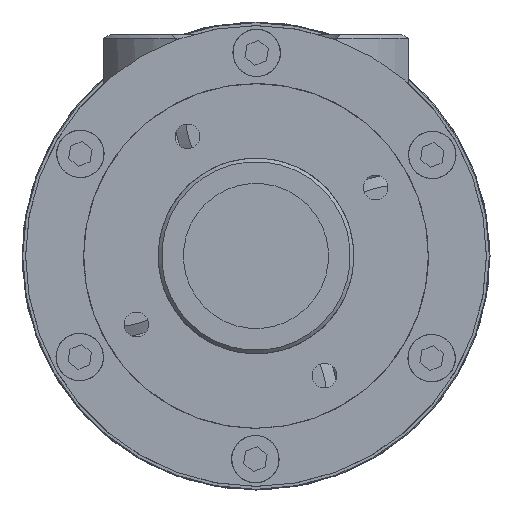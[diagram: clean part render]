
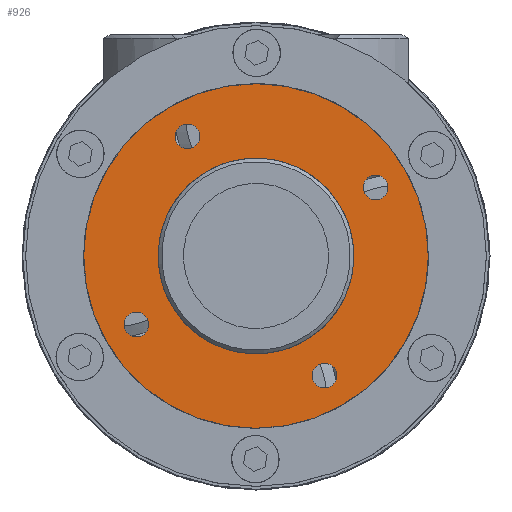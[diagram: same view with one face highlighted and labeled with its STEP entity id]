
A CAD part, left-side view. The second image highlights one B-rep face of the part: STEP entity #926.
In plain terms, the highlighted planar face has unit normal (-1, 0, 0) as drawn and (0, -1, 0) by its records, which use the part's own axes.
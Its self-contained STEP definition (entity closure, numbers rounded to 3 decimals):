
#926 = ADVANCED_FACE( '', ( #1956, #1957, #1958, #1959, #1960, #1961 ), #1962, .F. );
#1956 = FACE_OUTER_BOUND( '', #3077, .T. );
#1957 = FACE_BOUND( '', #3078, .T. );
#1958 = FACE_BOUND( '', #3079, .T. );
#1959 = FACE_BOUND( '', #3080, .T. );
#1960 = FACE_BOUND( '', #3081, .T. );
#1961 = FACE_BOUND( '', #3082, .T. );
#1962 = PLANE( '', #3083 );
#3077 = EDGE_LOOP( '', ( #5564 ) );
#3078 = EDGE_LOOP( '', ( #5565 ) );
#3079 = EDGE_LOOP( '', ( #5566 ) );
#3080 = EDGE_LOOP( '', ( #5567 ) );
#3081 = EDGE_LOOP( '', ( #5568 ) );
#3082 = EDGE_LOOP( '', ( #5569 ) );
#3083 = AXIS2_PLACEMENT_3D( '', #5570, #5571, #5572 );
#5564 = ORIENTED_EDGE( '', *, *, #6716, .T. );
#5565 = ORIENTED_EDGE( '', *, *, #6724, .F. );
#5566 = ORIENTED_EDGE( '', *, *, #6722, .F. );
#5567 = ORIENTED_EDGE( '', *, *, #6723, .F. );
#5568 = ORIENTED_EDGE( '', *, *, #6725, .F. );
#5569 = ORIENTED_EDGE( '', *, *, #6726, .F. );
#5570 = CARTESIAN_POINT( '', ( 0., 0., 47.5 ) );
#5571 = DIRECTION( '', ( 0., 1., 0. ) );
#5572 = DIRECTION( '', ( 1., 0., 0. ) );
#6716 = EDGE_CURVE( '', #7967, #7967, #7968, .T. );
#6722 = EDGE_CURVE( '', #7979, #7979, #7980, .T. );
#6723 = EDGE_CURVE( '', #7981, #7981, #7982, .T. );
#6724 = EDGE_CURVE( '', #7983, #7983, #7984, .T. );
#6725 = EDGE_CURVE( '', #7985, #7985, #7986, .T. );
#6726 = EDGE_CURVE( '', #7987, #7987, #7988, .T. );
#7967 = VERTEX_POINT( '', #10101 );
#7968 = CIRCLE( '', #10102, 47.5 );
#7979 = VERTEX_POINT( '', #10113 );
#7980 = CIRCLE( '', #10114, 3.4 );
#7981 = VERTEX_POINT( '', #10115 );
#7982 = CIRCLE( '', #10116, 3.4 );
#7983 = VERTEX_POINT( '', #10117 );
#7984 = CIRCLE( '', #10118, 3.4 );
#7985 = VERTEX_POINT( '', #10119 );
#7986 = CIRCLE( '', #10120, 3.4 );
#7987 = VERTEX_POINT( '', #10121 );
#7988 = CIRCLE( '', #10122, 27. );
#10101 = CARTESIAN_POINT( '', ( 0., 0., -47.5 ) );
#10102 = AXIS2_PLACEMENT_3D( '', #11837, #11838, #11839 );
#10113 = CARTESIAN_POINT( '', ( -3.4, 0., -38. ) );
#10114 = AXIS2_PLACEMENT_3D( '', #11855, #11856, #11857 );
#10115 = CARTESIAN_POINT( '', ( 38., 0., -3.4 ) );
#10116 = AXIS2_PLACEMENT_3D( '', #11858, #11859, #11860 );
#10117 = CARTESIAN_POINT( '', ( -38., 0., 3.4 ) );
#10118 = AXIS2_PLACEMENT_3D( '', #11861, #11862, #11863 );
#10119 = CARTESIAN_POINT( '', ( 3.4, 0., 38. ) );
#10120 = AXIS2_PLACEMENT_3D( '', #11864, #11865, #11866 );
#10121 = CARTESIAN_POINT( '', ( 0., 0., -27. ) );
#10122 = AXIS2_PLACEMENT_3D( '', #11867, #11868, #11869 );
#11837 = CARTESIAN_POINT( '', ( 0., 0., 0. ) );
#11838 = DIRECTION( '', ( 0., -1., 0. ) );
#11839 = DIRECTION( '', ( 0., 0., -1. ) );
#11855 = CARTESIAN_POINT( '', ( 0., 0., -38. ) );
#11856 = DIRECTION( '', ( 0., -1., 0. ) );
#11857 = DIRECTION( '', ( -1., 0., 0. ) );
#11858 = CARTESIAN_POINT( '', ( 38., 0., 0. ) );
#11859 = DIRECTION( '', ( 0., -1., 0. ) );
#11860 = DIRECTION( '', ( 0., 0., -1. ) );
#11861 = CARTESIAN_POINT( '', ( -38., 0., 0. ) );
#11862 = DIRECTION( '', ( 0., -1., 0. ) );
#11863 = DIRECTION( '', ( 0., 0., 1. ) );
#11864 = CARTESIAN_POINT( '', ( 0., 0., 38. ) );
#11865 = DIRECTION( '', ( 0., -1., 0. ) );
#11866 = DIRECTION( '', ( 1., 0., 0. ) );
#11867 = CARTESIAN_POINT( '', ( 0., 0., 0. ) );
#11868 = DIRECTION( '', ( 0., -1., 0. ) );
#11869 = DIRECTION( '', ( 0., 0., -1. ) );
